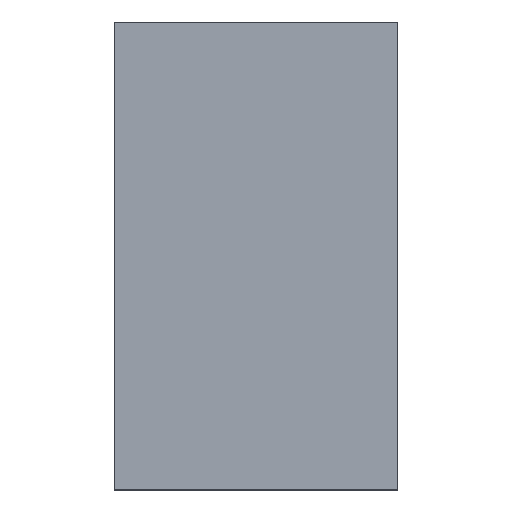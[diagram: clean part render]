
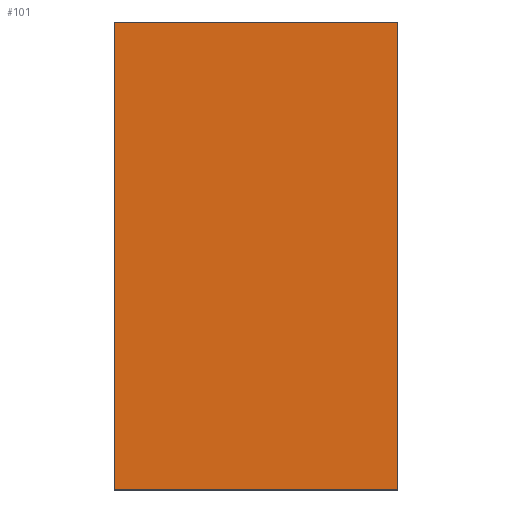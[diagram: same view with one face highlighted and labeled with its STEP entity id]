
A CAD part, top view. The second image highlights one B-rep face of the part: STEP entity #101.
In plain terms, the highlighted planar face has unit normal (0, 0, 1).
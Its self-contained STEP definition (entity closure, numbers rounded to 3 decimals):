
#15=FACE_OUTER_BOUND('',#21,.T.);
#21=EDGE_LOOP('',(#71,#72,#73,#74));
#27=LINE('',#157,#39);
#28=LINE('',#159,#40);
#29=LINE('',#161,#41);
#30=LINE('',#162,#42);
#39=VECTOR('',#131,10.);
#40=VECTOR('',#132,10.);
#41=VECTOR('',#133,10.);
#42=VECTOR('',#134,10.);
#51=VERTEX_POINT('',#155);
#52=VERTEX_POINT('',#156);
#53=VERTEX_POINT('',#158);
#54=VERTEX_POINT('',#160);
#59=EDGE_CURVE('',#51,#52,#27,.T.);
#60=EDGE_CURVE('',#52,#53,#28,.T.);
#61=EDGE_CURVE('',#53,#54,#29,.T.);
#62=EDGE_CURVE('',#54,#51,#30,.T.);
#71=ORIENTED_EDGE('',*,*,#59,.T.);
#72=ORIENTED_EDGE('',*,*,#60,.T.);
#73=ORIENTED_EDGE('',*,*,#61,.T.);
#74=ORIENTED_EDGE('',*,*,#62,.T.);
#95=PLANE('',#121);
#101=ADVANCED_FACE('',(#15),#95,.T.);
#121=AXIS2_PLACEMENT_3D('',#154,#129,#130);
#129=DIRECTION('center_axis',(0.,0.,1.));
#130=DIRECTION('ref_axis',(1.,0.,0.));
#131=DIRECTION('',(0.,1.,0.));
#132=DIRECTION('',(-1.,0.,0.));
#133=DIRECTION('',(0.,-1.,0.));
#134=DIRECTION('',(1.,0.,0.));
#154=CARTESIAN_POINT('Origin',(35.325,-6.,-12.2));
#155=CARTESIAN_POINT('',(38.05,-10.5,-12.2));
#156=CARTESIAN_POINT('',(38.05,-1.5,-12.2));
#157=CARTESIAN_POINT('',(38.05,-6.,-12.2));
#158=CARTESIAN_POINT('',(32.6,-1.5,-12.2));
#159=CARTESIAN_POINT('',(35.325,-1.5,-12.2));
#160=CARTESIAN_POINT('',(32.6,-10.5,-12.2));
#161=CARTESIAN_POINT('',(32.6,-6.,-12.2));
#162=CARTESIAN_POINT('',(35.325,-10.5,-12.2));
